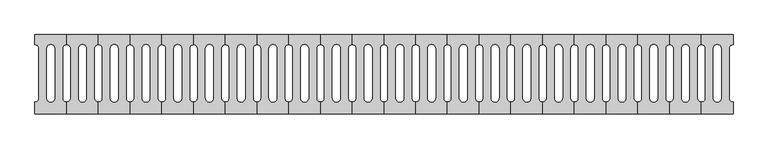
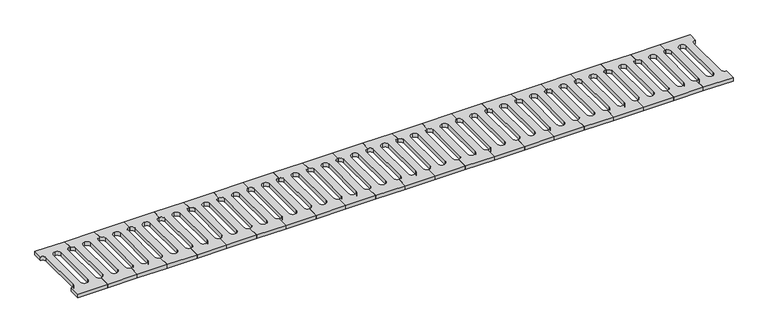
"""IFC4 building model written with IfcOpenShell, lengths in millimetres: proxy geometry, 排水沟盖板 : 排水沟盖板."""

from ifc_helpers import new_model, si_unit, point, frame, frame_2d, origin, place, context, project, spatial, polyline, circle_curve, trimmed, segment, composite_curve, outline, extrude, source, transform, mapped, element, save


def generic_models_fe227e94(model_context):
    return source(origin(), model_context, "Body", "SweptSolid", [
        extrude(outline(composite_curve([segment(polyline([(6080.0, -200.0), (5920.0, -200.0), (5920.0, -140.0)]), True, "CONTINUOUS"), segment(trimmed(circle_curve(frame_2d((5920.0, -120.0)), 20.0), [point((5920.0, -140.0))], [point((5940.0, -120.0))], True, "CARTESIAN"), True, "CONTINUOUS"), segment(polyline([(5940.0, -120.0), (5940.0, 130.0)]), True, "CONTINUOUS"), segment(trimmed(circle_curve(frame_2d((5920.0, 130.0)), 20.0), [point((5940.0, 130.0))], [point((5920.0, 150.0))], True, "CARTESIAN"), True, "CONTINUOUS"), segment(polyline([(5920.0, 150.0), (5920.0, 200.0), (6080.0, 200.0), (6080.0, 150.0)]), True, "CONTINUOUS"), segment(trimmed(circle_curve(frame_2d((6080.0, 130.0)), 20.0), [point((6080.0, 150.0))], [point((6060.0, 130.0))], True, "CARTESIAN"), True, "CONTINUOUS"), segment(polyline([(6060.0, 130.0), (6060.0, -120.0)]), True, "CONTINUOUS"), segment(trimmed(circle_curve(frame_2d((6080.0, -120.0)), 20.0), [point((6060.0, -120.0))], [point((6080.0, -140.0))], True, "CARTESIAN"), True, "CONTINUOUS"), segment(polyline([(6080.0, -140.0), (6080.0, -200.0)]), True, "CONTINUOUS")], self_intersect=False), holes=[composite_curve([segment(polyline([(5980.0, 130.0), (5980.0, -120.0)]), True, "CONTINUOUS"), segment(trimmed(circle_curve(frame_2d((6000.0, -120.0)), 20.0), [point((5980.0, -120.0))], [point((6000.0, -140.0))], True, "CARTESIAN"), True, "CONTINUOUS"), segment(trimmed(circle_curve(frame_2d((6000.0, -120.0)), 20.0), [point((6000.0, -140.0))], [point((6020.0, -120.0))], True, "CARTESIAN"), True, "CONTINUOUS"), segment(polyline([(6020.0, -120.0), (6020.0, 130.0)]), True, "CONTINUOUS"), segment(trimmed(circle_curve(frame_2d((6000.0, 130.0)), 20.0), [point((6020.0, 130.0))], [point((6000.0, 150.0))], True, "CARTESIAN"), True, "CONTINUOUS"), segment(trimmed(circle_curve(frame_2d((6000.0, 130.0)), 20.0), [point((6000.0, 150.0))], [point((5980.0, 130.0))], True, "CARTESIAN"), True, "CONTINUOUS")], self_intersect=False)]), frame((0.0, 0.0, -20.0), z_axis=(0.0, 0.0, 1.0), x_axis=(1.0, 0.0, 0.0)), (0.0, 0.0, 1.0), 20.0),
        extrude(outline(composite_curve([segment(polyline([(5920.0, -200.0), (5760.0, -200.0), (5760.0, -140.0)]), True, "CONTINUOUS"), segment(trimmed(circle_curve(frame_2d((5760.0, -120.0)), 20.0), [point((5760.0, -140.0))], [point((5780.0, -120.0))], True, "CARTESIAN"), True, "CONTINUOUS"), segment(polyline([(5780.0, -120.0), (5780.0, 130.0)]), True, "CONTINUOUS"), segment(trimmed(circle_curve(frame_2d((5760.0, 130.0)), 20.0), [point((5780.0, 130.0))], [point((5760.0, 150.0))], True, "CARTESIAN"), True, "CONTINUOUS"), segment(polyline([(5760.0, 150.0), (5760.0, 200.0), (5920.0, 200.0), (5920.0, 150.0)]), True, "CONTINUOUS"), segment(trimmed(circle_curve(frame_2d((5920.0, 130.0)), 20.0), [point((5920.0, 150.0))], [point((5900.0, 130.0))], True, "CARTESIAN"), True, "CONTINUOUS"), segment(polyline([(5900.0, 130.0), (5900.0, -120.0)]), True, "CONTINUOUS"), segment(trimmed(circle_curve(frame_2d((5920.0, -120.0)), 20.0), [point((5900.0, -120.0))], [point((5920.0, -140.0))], True, "CARTESIAN"), True, "CONTINUOUS"), segment(polyline([(5920.0, -140.0), (5920.0, -200.0)]), True, "CONTINUOUS")], self_intersect=False), holes=[composite_curve([segment(polyline([(5820.0, 130.0), (5820.0, -120.0)]), True, "CONTINUOUS"), segment(trimmed(circle_curve(frame_2d((5840.0, -120.0)), 20.0), [point((5820.0, -120.0))], [point((5840.0, -140.0))], True, "CARTESIAN"), True, "CONTINUOUS"), segment(trimmed(circle_curve(frame_2d((5840.0, -120.0)), 20.0), [point((5840.0, -140.0))], [point((5860.0, -120.0))], True, "CARTESIAN"), True, "CONTINUOUS"), segment(polyline([(5860.0, -120.0), (5860.0, 130.0)]), True, "CONTINUOUS"), segment(trimmed(circle_curve(frame_2d((5840.0, 130.0)), 20.0), [point((5860.0, 130.0))], [point((5840.0, 150.0))], True, "CARTESIAN"), True, "CONTINUOUS"), segment(trimmed(circle_curve(frame_2d((5840.0, 130.0)), 20.0), [point((5840.0, 150.0))], [point((5820.0, 130.0))], True, "CARTESIAN"), True, "CONTINUOUS")], self_intersect=False)]), frame((0.0, 0.0, -20.0), z_axis=(0.0, 0.0, 1.0), x_axis=(1.0, 0.0, 0.0)), (0.0, 0.0, 1.0), 20.0),
        extrude(outline(composite_curve([segment(polyline([(5760.0, -200.0), (5600.0, -200.0), (5600.0, -140.0)]), True, "CONTINUOUS"), segment(trimmed(circle_curve(frame_2d((5600.0, -120.0)), 20.0), [point((5600.0, -140.0))], [point((5620.0, -120.0))], True, "CARTESIAN"), True, "CONTINUOUS"), segment(polyline([(5620.0, -120.0), (5620.0, 130.0)]), True, "CONTINUOUS"), segment(trimmed(circle_curve(frame_2d((5600.0, 130.0)), 20.0), [point((5620.0, 130.0))], [point((5600.0, 150.0))], True, "CARTESIAN"), True, "CONTINUOUS"), segment(polyline([(5600.0, 150.0), (5600.0, 200.0), (5760.0, 200.0), (5760.0, 150.0)]), True, "CONTINUOUS"), segment(trimmed(circle_curve(frame_2d((5760.0, 130.0)), 20.0), [point((5760.0, 150.0))], [point((5740.0, 130.0))], True, "CARTESIAN"), True, "CONTINUOUS"), segment(polyline([(5740.0, 130.0), (5740.0, -120.0)]), True, "CONTINUOUS"), segment(trimmed(circle_curve(frame_2d((5760.0, -120.0)), 20.0), [point((5740.0, -120.0))], [point((5760.0, -140.0))], True, "CARTESIAN"), True, "CONTINUOUS"), segment(polyline([(5760.0, -140.0), (5760.0, -200.0)]), True, "CONTINUOUS")], self_intersect=False), holes=[composite_curve([segment(polyline([(5660.0, 130.0), (5660.0, -120.0)]), True, "CONTINUOUS"), segment(trimmed(circle_curve(frame_2d((5680.0, -120.0)), 20.0), [point((5660.0, -120.0))], [point((5680.0, -140.0))], True, "CARTESIAN"), True, "CONTINUOUS"), segment(trimmed(circle_curve(frame_2d((5680.0, -120.0)), 20.0), [point((5680.0, -140.0))], [point((5700.0, -120.0))], True, "CARTESIAN"), True, "CONTINUOUS"), segment(polyline([(5700.0, -120.0), (5700.0, 130.0)]), True, "CONTINUOUS"), segment(trimmed(circle_curve(frame_2d((5680.0, 130.0)), 20.0), [point((5700.0, 130.0))], [point((5680.0, 150.0))], True, "CARTESIAN"), True, "CONTINUOUS"), segment(trimmed(circle_curve(frame_2d((5680.0, 130.0)), 20.0), [point((5680.0, 150.0))], [point((5660.0, 130.0))], True, "CARTESIAN"), True, "CONTINUOUS")], self_intersect=False)]), frame((0.0, 0.0, -20.0), z_axis=(0.0, 0.0, 1.0), x_axis=(1.0, 0.0, 0.0)), (0.0, 0.0, 1.0), 20.0),
        extrude(outline(composite_curve([segment(polyline([(5600.0, -200.0), (5440.0, -200.0), (5440.0, -140.0)]), True, "CONTINUOUS"), segment(trimmed(circle_curve(frame_2d((5440.0, -120.0)), 20.0), [point((5440.0, -140.0))], [point((5460.0, -120.0))], True, "CARTESIAN"), True, "CONTINUOUS"), segment(polyline([(5460.0, -120.0), (5460.0, 130.0)]), True, "CONTINUOUS"), segment(trimmed(circle_curve(frame_2d((5440.0, 130.0)), 20.0), [point((5460.0, 130.0))], [point((5440.0, 150.0))], True, "CARTESIAN"), True, "CONTINUOUS"), segment(polyline([(5440.0, 150.0), (5440.0, 200.0), (5600.0, 200.0), (5600.0, 150.0)]), True, "CONTINUOUS"), segment(trimmed(circle_curve(frame_2d((5600.0, 130.0)), 20.0), [point((5600.0, 150.0))], [point((5580.0, 130.0))], True, "CARTESIAN"), True, "CONTINUOUS"), segment(polyline([(5580.0, 130.0), (5580.0, -120.0)]), True, "CONTINUOUS"), segment(trimmed(circle_curve(frame_2d((5600.0, -120.0)), 20.0), [point((5580.0, -120.0))], [point((5600.0, -140.0))], True, "CARTESIAN"), True, "CONTINUOUS"), segment(polyline([(5600.0, -140.0), (5600.0, -200.0)]), True, "CONTINUOUS")], self_intersect=False), holes=[composite_curve([segment(polyline([(5500.0, 130.0), (5500.0, -120.0)]), True, "CONTINUOUS"), segment(trimmed(circle_curve(frame_2d((5520.0, -120.0)), 20.0), [point((5500.0, -120.0))], [point((5520.0, -140.0))], True, "CARTESIAN"), True, "CONTINUOUS"), segment(trimmed(circle_curve(frame_2d((5520.0, -120.0)), 20.0), [point((5520.0, -140.0))], [point((5540.0, -120.0))], True, "CARTESIAN"), True, "CONTINUOUS"), segment(polyline([(5540.0, -120.0), (5540.0, 130.0)]), True, "CONTINUOUS"), segment(trimmed(circle_curve(frame_2d((5520.0, 130.0)), 20.0), [point((5540.0, 130.0))], [point((5520.0, 150.0))], True, "CARTESIAN"), True, "CONTINUOUS"), segment(trimmed(circle_curve(frame_2d((5520.0, 130.0)), 20.0), [point((5520.0, 150.0))], [point((5500.0, 130.0))], True, "CARTESIAN"), True, "CONTINUOUS")], self_intersect=False)]), frame((0.0, 0.0, -20.0), z_axis=(0.0, 0.0, 1.0), x_axis=(1.0, 0.0, 0.0)), (0.0, 0.0, 1.0), 20.0),
        extrude(outline(composite_curve([segment(polyline([(5440.0, -200.0), (5280.0, -200.0), (5280.0, -140.0)]), True, "CONTINUOUS"), segment(trimmed(circle_curve(frame_2d((5280.0, -120.0)), 20.0), [point((5280.0, -140.0))], [point((5300.0, -120.0))], True, "CARTESIAN"), True, "CONTINUOUS"), segment(polyline([(5300.0, -120.0), (5300.0, 130.0)]), True, "CONTINUOUS"), segment(trimmed(circle_curve(frame_2d((5280.0, 130.0)), 20.0), [point((5300.0, 130.0))], [point((5280.0, 150.0))], True, "CARTESIAN"), True, "CONTINUOUS"), segment(polyline([(5280.0, 150.0), (5280.0, 200.0), (5440.0, 200.0), (5440.0, 150.0)]), True, "CONTINUOUS"), segment(trimmed(circle_curve(frame_2d((5440.0, 130.0)), 20.0), [point((5440.0, 150.0))], [point((5420.0, 130.0))], True, "CARTESIAN"), True, "CONTINUOUS"), segment(polyline([(5420.0, 130.0), (5420.0, -120.0)]), True, "CONTINUOUS"), segment(trimmed(circle_curve(frame_2d((5440.0, -120.0)), 20.0), [point((5420.0, -120.0))], [point((5440.0, -140.0))], True, "CARTESIAN"), True, "CONTINUOUS"), segment(polyline([(5440.0, -140.0), (5440.0, -200.0)]), True, "CONTINUOUS")], self_intersect=False), holes=[composite_curve([segment(polyline([(5340.0, 130.0), (5340.0, -120.0)]), True, "CONTINUOUS"), segment(trimmed(circle_curve(frame_2d((5360.0, -120.0)), 20.0), [point((5340.0, -120.0))], [point((5360.0, -140.0))], True, "CARTESIAN"), True, "CONTINUOUS"), segment(trimmed(circle_curve(frame_2d((5360.0, -120.0)), 20.0), [point((5360.0, -140.0))], [point((5380.0, -120.0))], True, "CARTESIAN"), True, "CONTINUOUS"), segment(polyline([(5380.0, -120.0), (5380.0, 130.0)]), True, "CONTINUOUS"), segment(trimmed(circle_curve(frame_2d((5360.0, 130.0)), 20.0), [point((5380.0, 130.0))], [point((5360.0, 150.0))], True, "CARTESIAN"), True, "CONTINUOUS"), segment(trimmed(circle_curve(frame_2d((5360.0, 130.0)), 20.0), [point((5360.0, 150.0))], [point((5340.0, 130.0))], True, "CARTESIAN"), True, "CONTINUOUS")], self_intersect=False)]), frame((0.0, 0.0, -20.0), z_axis=(0.0, 0.0, 1.0), x_axis=(1.0, 0.0, 0.0)), (0.0, 0.0, 1.0), 20.0),
        extrude(outline(composite_curve([segment(polyline([(5280.0, -200.0), (5120.0, -200.0), (5120.0, -140.0)]), True, "CONTINUOUS"), segment(trimmed(circle_curve(frame_2d((5120.0, -120.0)), 20.0), [point((5120.0, -140.0))], [point((5140.0, -120.0))], True, "CARTESIAN"), True, "CONTINUOUS"), segment(polyline([(5140.0, -120.0), (5140.0, 130.0)]), True, "CONTINUOUS"), segment(trimmed(circle_curve(frame_2d((5120.0, 130.0)), 20.0), [point((5140.0, 130.0))], [point((5120.0, 150.0))], True, "CARTESIAN"), True, "CONTINUOUS"), segment(polyline([(5120.0, 150.0), (5120.0, 200.0), (5280.0, 200.0), (5280.0, 150.0)]), True, "CONTINUOUS"), segment(trimmed(circle_curve(frame_2d((5280.0, 130.0)), 20.0), [point((5280.0, 150.0))], [point((5260.0, 130.0))], True, "CARTESIAN"), True, "CONTINUOUS"), segment(polyline([(5260.0, 130.0), (5260.0, -120.0)]), True, "CONTINUOUS"), segment(trimmed(circle_curve(frame_2d((5280.0, -120.0)), 20.0), [point((5260.0, -120.0))], [point((5280.0, -140.0))], True, "CARTESIAN"), True, "CONTINUOUS"), segment(polyline([(5280.0, -140.0), (5280.0, -200.0)]), True, "CONTINUOUS")], self_intersect=False), holes=[composite_curve([segment(polyline([(5180.0, 130.0), (5180.0, -120.0)]), True, "CONTINUOUS"), segment(trimmed(circle_curve(frame_2d((5200.0, -120.0)), 20.0), [point((5180.0, -120.0))], [point((5200.0, -140.0))], True, "CARTESIAN"), True, "CONTINUOUS"), segment(trimmed(circle_curve(frame_2d((5200.0, -120.0)), 20.0), [point((5200.0, -140.0))], [point((5220.0, -120.0))], True, "CARTESIAN"), True, "CONTINUOUS"), segment(polyline([(5220.0, -120.0), (5220.0, 130.0)]), True, "CONTINUOUS"), segment(trimmed(circle_curve(frame_2d((5200.0, 130.0)), 20.0), [point((5220.0, 130.0))], [point((5200.0, 150.0))], True, "CARTESIAN"), True, "CONTINUOUS"), segment(trimmed(circle_curve(frame_2d((5200.0, 130.0)), 20.0), [point((5200.0, 150.0))], [point((5180.0, 130.0))], True, "CARTESIAN"), True, "CONTINUOUS")], self_intersect=False)]), frame((0.0, 0.0, -20.0), z_axis=(0.0, 0.0, 1.0), x_axis=(1.0, 0.0, 0.0)), (0.0, 0.0, 1.0), 20.0),
        extrude(outline(composite_curve([segment(polyline([(5120.0, -200.0), (4960.0, -200.0), (4960.0, -140.0)]), True, "CONTINUOUS"), segment(trimmed(circle_curve(frame_2d((4960.0, -120.0)), 20.0), [point((4960.0, -140.0))], [point((4980.0, -120.0))], True, "CARTESIAN"), True, "CONTINUOUS"), segment(polyline([(4980.0, -120.0), (4980.0, 130.0)]), True, "CONTINUOUS"), segment(trimmed(circle_curve(frame_2d((4960.0, 130.0)), 20.0), [point((4980.0, 130.0))], [point((4960.0, 150.0))], True, "CARTESIAN"), True, "CONTINUOUS"), segment(polyline([(4960.0, 150.0), (4960.0, 200.0), (5120.0, 200.0), (5120.0, 150.0)]), True, "CONTINUOUS"), segment(trimmed(circle_curve(frame_2d((5120.0, 130.0)), 20.0), [point((5120.0, 150.0))], [point((5100.0, 130.0))], True, "CARTESIAN"), True, "CONTINUOUS"), segment(polyline([(5100.0, 130.0), (5100.0, -120.0)]), True, "CONTINUOUS"), segment(trimmed(circle_curve(frame_2d((5120.0, -120.0)), 20.0), [point((5100.0, -120.0))], [point((5120.0, -140.0))], True, "CARTESIAN"), True, "CONTINUOUS"), segment(polyline([(5120.0, -140.0), (5120.0, -200.0)]), True, "CONTINUOUS")], self_intersect=False), holes=[composite_curve([segment(polyline([(5020.0, 130.0), (5020.0, -120.0)]), True, "CONTINUOUS"), segment(trimmed(circle_curve(frame_2d((5040.0, -120.0)), 20.0), [point((5020.0, -120.0))], [point((5040.0, -140.0))], True, "CARTESIAN"), True, "CONTINUOUS"), segment(trimmed(circle_curve(frame_2d((5040.0, -120.0)), 20.0), [point((5040.0, -140.0))], [point((5060.0, -120.0))], True, "CARTESIAN"), True, "CONTINUOUS"), segment(polyline([(5060.0, -120.0), (5060.0, 130.0)]), True, "CONTINUOUS"), segment(trimmed(circle_curve(frame_2d((5040.0, 130.0)), 20.0), [point((5060.0, 130.0))], [point((5040.0, 150.0))], True, "CARTESIAN"), True, "CONTINUOUS"), segment(trimmed(circle_curve(frame_2d((5040.0, 130.0)), 20.0), [point((5040.0, 150.0))], [point((5020.0, 130.0))], True, "CARTESIAN"), True, "CONTINUOUS")], self_intersect=False)]), frame((0.0, 0.0, -20.0), z_axis=(0.0, 0.0, 1.0), x_axis=(1.0, 0.0, 0.0)), (0.0, 0.0, 1.0), 20.0),
        extrude(outline(composite_curve([segment(polyline([(4960.0, -200.0), (4800.0, -200.0), (4800.0, -140.0)]), True, "CONTINUOUS"), segment(trimmed(circle_curve(frame_2d((4800.0, -120.0)), 20.0), [point((4800.0, -140.0))], [point((4820.0, -120.0))], True, "CARTESIAN"), True, "CONTINUOUS"), segment(polyline([(4820.0, -120.0), (4820.0, 130.0)]), True, "CONTINUOUS"), segment(trimmed(circle_curve(frame_2d((4800.0, 130.0)), 20.0), [point((4820.0, 130.0))], [point((4800.0, 150.0))], True, "CARTESIAN"), True, "CONTINUOUS"), segment(polyline([(4800.0, 150.0), (4800.0, 200.0), (4960.0, 200.0), (4960.0, 150.0)]), True, "CONTINUOUS"), segment(trimmed(circle_curve(frame_2d((4960.0, 130.0)), 20.0), [point((4960.0, 150.0))], [point((4940.0, 130.0))], True, "CARTESIAN"), True, "CONTINUOUS"), segment(polyline([(4940.0, 130.0), (4940.0, -120.0)]), True, "CONTINUOUS"), segment(trimmed(circle_curve(frame_2d((4960.0, -120.0)), 20.0), [point((4940.0, -120.0))], [point((4960.0, -140.0))], True, "CARTESIAN"), True, "CONTINUOUS"), segment(polyline([(4960.0, -140.0), (4960.0, -200.0)]), True, "CONTINUOUS")], self_intersect=False), holes=[composite_curve([segment(polyline([(4860.0, 130.0), (4860.0, -120.0)]), True, "CONTINUOUS"), segment(trimmed(circle_curve(frame_2d((4880.0, -120.0)), 20.0), [point((4860.0, -120.0))], [point((4880.0, -140.0))], True, "CARTESIAN"), True, "CONTINUOUS"), segment(trimmed(circle_curve(frame_2d((4880.0, -120.0)), 20.0), [point((4880.0, -140.0))], [point((4900.0, -120.0))], True, "CARTESIAN"), True, "CONTINUOUS"), segment(polyline([(4900.0, -120.0), (4900.0, 130.0)]), True, "CONTINUOUS"), segment(trimmed(circle_curve(frame_2d((4880.0, 130.0)), 20.0), [point((4900.0, 130.0))], [point((4880.0, 150.0))], True, "CARTESIAN"), True, "CONTINUOUS"), segment(trimmed(circle_curve(frame_2d((4880.0, 130.0)), 20.0), [point((4880.0, 150.0))], [point((4860.0, 130.0))], True, "CARTESIAN"), True, "CONTINUOUS")], self_intersect=False)]), frame((0.0, 0.0, -20.0), z_axis=(0.0, 0.0, 1.0), x_axis=(1.0, 0.0, 0.0)), (0.0, 0.0, 1.0), 20.0),
        extrude(outline(composite_curve([segment(polyline([(4800.0, -200.0), (4640.0, -200.0), (4640.0, -140.0)]), True, "CONTINUOUS"), segment(trimmed(circle_curve(frame_2d((4640.0, -120.0)), 20.0), [point((4640.0, -140.0))], [point((4660.0, -120.0))], True, "CARTESIAN"), True, "CONTINUOUS"), segment(polyline([(4660.0, -120.0), (4660.0, 130.0)]), True, "CONTINUOUS"), segment(trimmed(circle_curve(frame_2d((4640.0, 130.0)), 20.0), [point((4660.0, 130.0))], [point((4640.0, 150.0))], True, "CARTESIAN"), True, "CONTINUOUS"), segment(polyline([(4640.0, 150.0), (4640.0, 200.0), (4800.0, 200.0), (4800.0, 150.0)]), True, "CONTINUOUS"), segment(trimmed(circle_curve(frame_2d((4800.0, 130.0)), 20.0), [point((4800.0, 150.0))], [point((4780.0, 130.0))], True, "CARTESIAN"), True, "CONTINUOUS"), segment(polyline([(4780.0, 130.0), (4780.0, -120.0)]), True, "CONTINUOUS"), segment(trimmed(circle_curve(frame_2d((4800.0, -120.0)), 20.0), [point((4780.0, -120.0))], [point((4800.0, -140.0))], True, "CARTESIAN"), True, "CONTINUOUS"), segment(polyline([(4800.0, -140.0), (4800.0, -200.0)]), True, "CONTINUOUS")], self_intersect=False), holes=[composite_curve([segment(polyline([(4700.0, 130.0), (4700.0, -120.0)]), True, "CONTINUOUS"), segment(trimmed(circle_curve(frame_2d((4720.0, -120.0)), 20.0), [point((4700.0, -120.0))], [point((4720.0, -140.0))], True, "CARTESIAN"), True, "CONTINUOUS"), segment(trimmed(circle_curve(frame_2d((4720.0, -120.0)), 20.0), [point((4720.0, -140.0))], [point((4740.0, -120.0))], True, "CARTESIAN"), True, "CONTINUOUS"), segment(polyline([(4740.0, -120.0), (4740.0, 130.0)]), True, "CONTINUOUS"), segment(trimmed(circle_curve(frame_2d((4720.0, 130.0)), 20.0), [point((4740.0, 130.0))], [point((4720.0, 150.0))], True, "CARTESIAN"), True, "CONTINUOUS"), segment(trimmed(circle_curve(frame_2d((4720.0, 130.0)), 20.0), [point((4720.0, 150.0))], [point((4700.0, 130.0))], True, "CARTESIAN"), True, "CONTINUOUS")], self_intersect=False)]), frame((0.0, 0.0, -20.0), z_axis=(0.0, 0.0, 1.0), x_axis=(1.0, 0.0, 0.0)), (0.0, 0.0, 1.0), 20.0),
        extrude(outline(composite_curve([segment(polyline([(4640.0, -200.0), (4480.0, -200.0), (4480.0, -140.0)]), True, "CONTINUOUS"), segment(trimmed(circle_curve(frame_2d((4480.0, -120.0)), 20.0), [point((4480.0, -140.0))], [point((4500.0, -120.0))], True, "CARTESIAN"), True, "CONTINUOUS"), segment(polyline([(4500.0, -120.0), (4500.0, 130.0)]), True, "CONTINUOUS"), segment(trimmed(circle_curve(frame_2d((4480.0, 130.0)), 20.0), [point((4500.0, 130.0))], [point((4480.0, 150.0))], True, "CARTESIAN"), True, "CONTINUOUS"), segment(polyline([(4480.0, 150.0), (4480.0, 200.0), (4640.0, 200.0), (4640.0, 150.0)]), True, "CONTINUOUS"), segment(trimmed(circle_curve(frame_2d((4640.0, 130.0)), 20.0), [point((4640.0, 150.0))], [point((4620.0, 130.0))], True, "CARTESIAN"), True, "CONTINUOUS"), segment(polyline([(4620.0, 130.0), (4620.0, -120.0)]), True, "CONTINUOUS"), segment(trimmed(circle_curve(frame_2d((4640.0, -120.0)), 20.0), [point((4620.0, -120.0))], [point((4640.0, -140.0))], True, "CARTESIAN"), True, "CONTINUOUS"), segment(polyline([(4640.0, -140.0), (4640.0, -200.0)]), True, "CONTINUOUS")], self_intersect=False), holes=[composite_curve([segment(polyline([(4540.0, 130.0), (4540.0, -120.0)]), True, "CONTINUOUS"), segment(trimmed(circle_curve(frame_2d((4560.0, -120.0)), 20.0), [point((4540.0, -120.0))], [point((4560.0, -140.0))], True, "CARTESIAN"), True, "CONTINUOUS"), segment(trimmed(circle_curve(frame_2d((4560.0, -120.0)), 20.0), [point((4560.0, -140.0))], [point((4580.0, -120.0))], True, "CARTESIAN"), True, "CONTINUOUS"), segment(polyline([(4580.0, -120.0), (4580.0, 130.0)]), True, "CONTINUOUS"), segment(trimmed(circle_curve(frame_2d((4560.0, 130.0)), 20.0), [point((4580.0, 130.0))], [point((4560.0, 150.0))], True, "CARTESIAN"), True, "CONTINUOUS"), segment(trimmed(circle_curve(frame_2d((4560.0, 130.0)), 20.0), [point((4560.0, 150.0))], [point((4540.0, 130.0))], True, "CARTESIAN"), True, "CONTINUOUS")], self_intersect=False)]), frame((0.0, 0.0, -20.0), z_axis=(0.0, 0.0, 1.0), x_axis=(1.0, 0.0, 0.0)), (0.0, 0.0, 1.0), 20.0),
        extrude(outline(composite_curve([segment(polyline([(4480.0, -200.0), (4320.0, -200.0), (4320.0, -140.0)]), True, "CONTINUOUS"), segment(trimmed(circle_curve(frame_2d((4320.0, -120.0)), 20.0), [point((4320.0, -140.0))], [point((4340.0, -120.0))], True, "CARTESIAN"), True, "CONTINUOUS"), segment(polyline([(4340.0, -120.0), (4340.0, 130.0)]), True, "CONTINUOUS"), segment(trimmed(circle_curve(frame_2d((4320.0, 130.0)), 20.0), [point((4340.0, 130.0))], [point((4320.0, 150.0))], True, "CARTESIAN"), True, "CONTINUOUS"), segment(polyline([(4320.0, 150.0), (4320.0, 200.0), (4480.0, 200.0), (4480.0, 150.0)]), True, "CONTINUOUS"), segment(trimmed(circle_curve(frame_2d((4480.0, 130.0)), 20.0), [point((4480.0, 150.0))], [point((4460.0, 130.0))], True, "CARTESIAN"), True, "CONTINUOUS"), segment(polyline([(4460.0, 130.0), (4460.0, -120.0)]), True, "CONTINUOUS"), segment(trimmed(circle_curve(frame_2d((4480.0, -120.0)), 20.0), [point((4460.0, -120.0))], [point((4480.0, -140.0))], True, "CARTESIAN"), True, "CONTINUOUS"), segment(polyline([(4480.0, -140.0), (4480.0, -200.0)]), True, "CONTINUOUS")], self_intersect=False), holes=[composite_curve([segment(polyline([(4380.0, 130.0), (4380.0, -120.0)]), True, "CONTINUOUS"), segment(trimmed(circle_curve(frame_2d((4400.0, -120.0)), 20.0), [point((4380.0, -120.0))], [point((4400.0, -140.0))], True, "CARTESIAN"), True, "CONTINUOUS"), segment(trimmed(circle_curve(frame_2d((4400.0, -120.0)), 20.0), [point((4400.0, -140.0))], [point((4420.0, -120.0))], True, "CARTESIAN"), True, "CONTINUOUS"), segment(polyline([(4420.0, -120.0), (4420.0, 130.0)]), True, "CONTINUOUS"), segment(trimmed(circle_curve(frame_2d((4400.0, 130.0)), 20.0), [point((4420.0, 130.0))], [point((4400.0, 150.0))], True, "CARTESIAN"), True, "CONTINUOUS"), segment(trimmed(circle_curve(frame_2d((4400.0, 130.0)), 20.0), [point((4400.0, 150.0))], [point((4380.0, 130.0))], True, "CARTESIAN"), True, "CONTINUOUS")], self_intersect=False)]), frame((0.0, 0.0, -20.0), z_axis=(0.0, 0.0, 1.0), x_axis=(1.0, 0.0, 0.0)), (0.0, 0.0, 1.0), 20.0),
        extrude(outline(composite_curve([segment(polyline([(4320.0, -200.0), (4160.0, -200.0), (4160.0, -140.0)]), True, "CONTINUOUS"), segment(trimmed(circle_curve(frame_2d((4160.0, -120.0)), 20.0), [point((4160.0, -140.0))], [point((4180.0, -120.0))], True, "CARTESIAN"), True, "CONTINUOUS"), segment(polyline([(4180.0, -120.0), (4180.0, 130.0)]), True, "CONTINUOUS"), segment(trimmed(circle_curve(frame_2d((4160.0, 130.0)), 20.0), [point((4180.0, 130.0))], [point((4160.0, 150.0))], True, "CARTESIAN"), True, "CONTINUOUS"), segment(polyline([(4160.0, 150.0), (4160.0, 200.0), (4320.0, 200.0), (4320.0, 150.0)]), True, "CONTINUOUS"), segment(trimmed(circle_curve(frame_2d((4320.0, 130.0)), 20.0), [point((4320.0, 150.0))], [point((4300.0, 130.0))], True, "CARTESIAN"), True, "CONTINUOUS"), segment(polyline([(4300.0, 130.0), (4300.0, -120.0)]), True, "CONTINUOUS"), segment(trimmed(circle_curve(frame_2d((4320.0, -120.0)), 20.0), [point((4300.0, -120.0))], [point((4320.0, -140.0))], True, "CARTESIAN"), True, "CONTINUOUS"), segment(polyline([(4320.0, -140.0), (4320.0, -200.0)]), True, "CONTINUOUS")], self_intersect=False), holes=[composite_curve([segment(polyline([(4220.0, 130.0), (4220.0, -120.0)]), True, "CONTINUOUS"), segment(trimmed(circle_curve(frame_2d((4240.0, -120.0)), 20.0), [point((4220.0, -120.0))], [point((4240.0, -140.0))], True, "CARTESIAN"), True, "CONTINUOUS"), segment(trimmed(circle_curve(frame_2d((4240.0, -120.0)), 20.0), [point((4240.0, -140.0))], [point((4260.0, -120.0))], True, "CARTESIAN"), True, "CONTINUOUS"), segment(polyline([(4260.0, -120.0), (4260.0, 130.0)]), True, "CONTINUOUS"), segment(trimmed(circle_curve(frame_2d((4240.0, 130.0)), 20.0), [point((4260.0, 130.0))], [point((4240.0, 150.0))], True, "CARTESIAN"), True, "CONTINUOUS"), segment(trimmed(circle_curve(frame_2d((4240.0, 130.0)), 20.0), [point((4240.0, 150.0))], [point((4220.0, 130.0))], True, "CARTESIAN"), True, "CONTINUOUS")], self_intersect=False)]), frame((0.0, 0.0, -20.0), z_axis=(0.0, 0.0, 1.0), x_axis=(1.0, 0.0, 0.0)), (0.0, 0.0, 1.0), 20.0),
        extrude(outline(composite_curve([segment(polyline([(4160.0, -200.0), (4000.0, -200.0), (4000.0, -140.0)]), True, "CONTINUOUS"), segment(trimmed(circle_curve(frame_2d((4000.0, -120.0)), 20.0), [point((4000.0, -140.0))], [point((4020.0, -120.0))], True, "CARTESIAN"), True, "CONTINUOUS"), segment(polyline([(4020.0, -120.0), (4020.0, 130.0)]), True, "CONTINUOUS"), segment(trimmed(circle_curve(frame_2d((4000.0, 130.0)), 20.0), [point((4020.0, 130.0))], [point((4000.0, 150.0))], True, "CARTESIAN"), True, "CONTINUOUS"), segment(polyline([(4000.0, 150.0), (4000.0, 200.0), (4160.0, 200.0), (4160.0, 150.0)]), True, "CONTINUOUS"), segment(trimmed(circle_curve(frame_2d((4160.0, 130.0)), 20.0), [point((4160.0, 150.0))], [point((4140.0, 130.0))], True, "CARTESIAN"), True, "CONTINUOUS"), segment(polyline([(4140.0, 130.0), (4140.0, -120.0)]), True, "CONTINUOUS"), segment(trimmed(circle_curve(frame_2d((4160.0, -120.0)), 20.0), [point((4140.0, -120.0))], [point((4160.0, -140.0))], True, "CARTESIAN"), True, "CONTINUOUS"), segment(polyline([(4160.0, -140.0), (4160.0, -200.0)]), True, "CONTINUOUS")], self_intersect=False), holes=[composite_curve([segment(polyline([(4060.0, 130.0), (4060.0, -120.0)]), True, "CONTINUOUS"), segment(trimmed(circle_curve(frame_2d((4080.0, -120.0)), 20.0), [point((4060.0, -120.0))], [point((4080.0, -140.0))], True, "CARTESIAN"), True, "CONTINUOUS"), segment(trimmed(circle_curve(frame_2d((4080.0, -120.0)), 20.0), [point((4080.0, -140.0))], [point((4100.0, -120.0))], True, "CARTESIAN"), True, "CONTINUOUS"), segment(polyline([(4100.0, -120.0), (4100.0, 130.0)]), True, "CONTINUOUS"), segment(trimmed(circle_curve(frame_2d((4080.0, 130.0)), 20.0), [point((4100.0, 130.0))], [point((4080.0, 150.0))], True, "CARTESIAN"), True, "CONTINUOUS"), segment(trimmed(circle_curve(frame_2d((4080.0, 130.0)), 20.0), [point((4080.0, 150.0))], [point((4060.0, 130.0))], True, "CARTESIAN"), True, "CONTINUOUS")], self_intersect=False)]), frame((0.0, 0.0, -20.0), z_axis=(0.0, 0.0, 1.0), x_axis=(1.0, 0.0, 0.0)), (0.0, 0.0, 1.0), 20.0),
        extrude(outline(composite_curve([segment(polyline([(4000.0, -200.0), (3840.0, -200.0), (3840.0, -140.0)]), True, "CONTINUOUS"), segment(trimmed(circle_curve(frame_2d((3840.0, -120.0)), 20.0), [point((3840.0, -140.0))], [point((3860.0, -120.0))], True, "CARTESIAN"), True, "CONTINUOUS"), segment(polyline([(3860.0, -120.0), (3860.0, 130.0)]), True, "CONTINUOUS"), segment(trimmed(circle_curve(frame_2d((3840.0, 130.0)), 20.0), [point((3860.0, 130.0))], [point((3840.0, 150.0))], True, "CARTESIAN"), True, "CONTINUOUS"), segment(polyline([(3840.0, 150.0), (3840.0, 200.0), (4000.0, 200.0), (4000.0, 150.0)]), True, "CONTINUOUS"), segment(trimmed(circle_curve(frame_2d((4000.0, 130.0)), 20.0), [point((4000.0, 150.0))], [point((3980.0, 130.0))], True, "CARTESIAN"), True, "CONTINUOUS"), segment(polyline([(3980.0, 130.0), (3980.0, -120.0)]), True, "CONTINUOUS"), segment(trimmed(circle_curve(frame_2d((4000.0, -120.0)), 20.0), [point((3980.0, -120.0))], [point((4000.0, -140.0))], True, "CARTESIAN"), True, "CONTINUOUS"), segment(polyline([(4000.0, -140.0), (4000.0, -200.0)]), True, "CONTINUOUS")], self_intersect=False), holes=[composite_curve([segment(polyline([(3900.0, 130.0), (3900.0, -120.0)]), True, "CONTINUOUS"), segment(trimmed(circle_curve(frame_2d((3920.0, -120.0)), 20.0), [point((3900.0, -120.0))], [point((3920.0, -140.0))], True, "CARTESIAN"), True, "CONTINUOUS"), segment(trimmed(circle_curve(frame_2d((3920.0, -120.0)), 20.0), [point((3920.0, -140.0))], [point((3940.0, -120.0))], True, "CARTESIAN"), True, "CONTINUOUS"), segment(polyline([(3940.0, -120.0), (3940.0, 130.0)]), True, "CONTINUOUS"), segment(trimmed(circle_curve(frame_2d((3920.0, 130.0)), 20.0), [point((3940.0, 130.0))], [point((3920.0, 150.0))], True, "CARTESIAN"), True, "CONTINUOUS"), segment(trimmed(circle_curve(frame_2d((3920.0, 130.0)), 20.0), [point((3920.0, 150.0))], [point((3900.0, 130.0))], True, "CARTESIAN"), True, "CONTINUOUS")], self_intersect=False)]), frame((0.0, 0.0, -20.0), z_axis=(0.0, 0.0, 1.0), x_axis=(1.0, 0.0, 0.0)), (0.0, 0.0, 1.0), 20.0),
        extrude(outline(composite_curve([segment(polyline([(3840.0, -200.0), (3680.0, -200.0), (3680.0, -140.0)]), True, "CONTINUOUS"), segment(trimmed(circle_curve(frame_2d((3680.0, -120.0)), 20.0), [point((3680.0, -140.0))], [point((3700.0, -120.0))], True, "CARTESIAN"), True, "CONTINUOUS"), segment(polyline([(3700.0, -120.0), (3700.0, 130.0)]), True, "CONTINUOUS"), segment(trimmed(circle_curve(frame_2d((3680.0, 130.0)), 20.0), [point((3700.0, 130.0))], [point((3680.0, 150.0))], True, "CARTESIAN"), True, "CONTINUOUS"), segment(polyline([(3680.0, 150.0), (3680.0, 200.0), (3840.0, 200.0), (3840.0, 150.0)]), True, "CONTINUOUS"), segment(trimmed(circle_curve(frame_2d((3840.0, 130.0)), 20.0), [point((3840.0, 150.0))], [point((3820.0, 130.0))], True, "CARTESIAN"), True, "CONTINUOUS"), segment(polyline([(3820.0, 130.0), (3820.0, -120.0)]), True, "CONTINUOUS"), segment(trimmed(circle_curve(frame_2d((3840.0, -120.0)), 20.0), [point((3820.0, -120.0))], [point((3840.0, -140.0))], True, "CARTESIAN"), True, "CONTINUOUS"), segment(polyline([(3840.0, -140.0), (3840.0, -200.0)]), True, "CONTINUOUS")], self_intersect=False), holes=[composite_curve([segment(polyline([(3740.0, 130.0), (3740.0, -120.0)]), True, "CONTINUOUS"), segment(trimmed(circle_curve(frame_2d((3760.0, -120.0)), 20.0), [point((3740.0, -120.0))], [point((3760.0, -140.0))], True, "CARTESIAN"), True, "CONTINUOUS"), segment(trimmed(circle_curve(frame_2d((3760.0, -120.0)), 20.0), [point((3760.0, -140.0))], [point((3780.0, -120.0))], True, "CARTESIAN"), True, "CONTINUOUS"), segment(polyline([(3780.0, -120.0), (3780.0, 130.0)]), True, "CONTINUOUS"), segment(trimmed(circle_curve(frame_2d((3760.0, 130.0)), 20.0), [point((3780.0, 130.0))], [point((3760.0, 150.0))], True, "CARTESIAN"), True, "CONTINUOUS"), segment(trimmed(circle_curve(frame_2d((3760.0, 130.0)), 20.0), [point((3760.0, 150.0))], [point((3740.0, 130.0))], True, "CARTESIAN"), True, "CONTINUOUS")], self_intersect=False)]), frame((0.0, 0.0, -20.0), z_axis=(0.0, 0.0, 1.0), x_axis=(1.0, 0.0, 0.0)), (0.0, 0.0, 1.0), 20.0),
        extrude(outline(composite_curve([segment(polyline([(3680.0, -200.0), (3520.0, -200.0), (3520.0, -140.0)]), True, "CONTINUOUS"), segment(trimmed(circle_curve(frame_2d((3520.0, -120.0)), 20.0), [point((3520.0, -140.0))], [point((3540.0, -120.0))], True, "CARTESIAN"), True, "CONTINUOUS"), segment(polyline([(3540.0, -120.0), (3540.0, 130.0)]), True, "CONTINUOUS"), segment(trimmed(circle_curve(frame_2d((3520.0, 130.0)), 20.0), [point((3540.0, 130.0))], [point((3520.0, 150.0))], True, "CARTESIAN"), True, "CONTINUOUS"), segment(polyline([(3520.0, 150.0), (3520.0, 200.0), (3680.0, 200.0), (3680.0, 150.0)]), True, "CONTINUOUS"), segment(trimmed(circle_curve(frame_2d((3680.0, 130.0)), 20.0), [point((3680.0, 150.0))], [point((3660.0, 130.0))], True, "CARTESIAN"), True, "CONTINUOUS"), segment(polyline([(3660.0, 130.0), (3660.0, -120.0)]), True, "CONTINUOUS"), segment(trimmed(circle_curve(frame_2d((3680.0, -120.0)), 20.0), [point((3660.0, -120.0))], [point((3680.0, -140.0))], True, "CARTESIAN"), True, "CONTINUOUS"), segment(polyline([(3680.0, -140.0), (3680.0, -200.0)]), True, "CONTINUOUS")], self_intersect=False), holes=[composite_curve([segment(polyline([(3580.0, 130.0), (3580.0, -120.0)]), True, "CONTINUOUS"), segment(trimmed(circle_curve(frame_2d((3600.0, -120.0)), 20.0), [point((3580.0, -120.0))], [point((3600.0, -140.0))], True, "CARTESIAN"), True, "CONTINUOUS"), segment(trimmed(circle_curve(frame_2d((3600.0, -120.0)), 20.0), [point((3600.0, -140.0))], [point((3620.0, -120.0))], True, "CARTESIAN"), True, "CONTINUOUS"), segment(polyline([(3620.0, -120.0), (3620.0, 130.0)]), True, "CONTINUOUS"), segment(trimmed(circle_curve(frame_2d((3600.0, 130.0)), 20.0), [point((3620.0, 130.0))], [point((3600.0, 150.0))], True, "CARTESIAN"), True, "CONTINUOUS"), segment(trimmed(circle_curve(frame_2d((3600.0, 130.0)), 20.0), [point((3600.0, 150.0))], [point((3580.0, 130.0))], True, "CARTESIAN"), True, "CONTINUOUS")], self_intersect=False)]), frame((0.0, 0.0, -20.0), z_axis=(0.0, 0.0, 1.0), x_axis=(1.0, 0.0, 0.0)), (0.0, 0.0, 1.0), 20.0),
        extrude(outline(composite_curve([segment(polyline([(3520.0, -200.0), (3360.0, -200.0), (3360.0, -140.0)]), True, "CONTINUOUS"), segment(trimmed(circle_curve(frame_2d((3360.0, -120.0)), 20.0), [point((3360.0, -140.0))], [point((3380.0, -120.0))], True, "CARTESIAN"), True, "CONTINUOUS"), segment(polyline([(3380.0, -120.0), (3380.0, 130.0)]), True, "CONTINUOUS"), segment(trimmed(circle_curve(frame_2d((3360.0, 130.0)), 20.0), [point((3380.0, 130.0))], [point((3360.0, 150.0))], True, "CARTESIAN"), True, "CONTINUOUS"), segment(polyline([(3360.0, 150.0), (3360.0, 200.0), (3520.0, 200.0), (3520.0, 150.0)]), True, "CONTINUOUS"), segment(trimmed(circle_curve(frame_2d((3520.0, 130.0)), 20.0), [point((3520.0, 150.0))], [point((3500.0, 130.0))], True, "CARTESIAN"), True, "CONTINUOUS"), segment(polyline([(3500.0, 130.0), (3500.0, -120.0)]), True, "CONTINUOUS"), segment(trimmed(circle_curve(frame_2d((3520.0, -120.0)), 20.0), [point((3500.0, -120.0))], [point((3520.0, -140.0))], True, "CARTESIAN"), True, "CONTINUOUS"), segment(polyline([(3520.0, -140.0), (3520.0, -200.0)]), True, "CONTINUOUS")], self_intersect=False), holes=[composite_curve([segment(polyline([(3420.0, 130.0), (3420.0, -120.0)]), True, "CONTINUOUS"), segment(trimmed(circle_curve(frame_2d((3440.0, -120.0)), 20.0), [point((3420.0, -120.0))], [point((3440.0, -140.0))], True, "CARTESIAN"), True, "CONTINUOUS"), segment(trimmed(circle_curve(frame_2d((3440.0, -120.0)), 20.0), [point((3440.0, -140.0))], [point((3460.0, -120.0))], True, "CARTESIAN"), True, "CONTINUOUS"), segment(polyline([(3460.0, -120.0), (3460.0, 130.0)]), True, "CONTINUOUS"), segment(trimmed(circle_curve(frame_2d((3440.0, 130.0)), 20.0), [point((3460.0, 130.0))], [point((3440.0, 150.0))], True, "CARTESIAN"), True, "CONTINUOUS"), segment(trimmed(circle_curve(frame_2d((3440.0, 130.0)), 20.0), [point((3440.0, 150.0))], [point((3420.0, 130.0))], True, "CARTESIAN"), True, "CONTINUOUS")], self_intersect=False)]), frame((0.0, 0.0, -20.0), z_axis=(0.0, 0.0, 1.0), x_axis=(1.0, 0.0, 0.0)), (0.0, 0.0, 1.0), 20.0),
        extrude(outline(composite_curve([segment(polyline([(3360.0, -200.0), (3200.0, -200.0), (3200.0, -140.0)]), True, "CONTINUOUS"), segment(trimmed(circle_curve(frame_2d((3200.0, -120.0)), 20.0), [point((3200.0, -140.0))], [point((3220.0, -120.0))], True, "CARTESIAN"), True, "CONTINUOUS"), segment(polyline([(3220.0, -120.0), (3220.0, 130.0)]), True, "CONTINUOUS"), segment(trimmed(circle_curve(frame_2d((3200.0, 130.0)), 20.0), [point((3220.0, 130.0))], [point((3200.0, 150.0))], True, "CARTESIAN"), True, "CONTINUOUS"), segment(polyline([(3200.0, 150.0), (3200.0, 200.0), (3360.0, 200.0), (3360.0, 150.0)]), True, "CONTINUOUS"), segment(trimmed(circle_curve(frame_2d((3360.0, 130.0)), 20.0), [point((3360.0, 150.0))], [point((3340.0, 130.0))], True, "CARTESIAN"), True, "CONTINUOUS"), segment(polyline([(3340.0, 130.0), (3340.0, -120.0)]), True, "CONTINUOUS"), segment(trimmed(circle_curve(frame_2d((3360.0, -120.0)), 20.0), [point((3340.0, -120.0))], [point((3360.0, -140.0))], True, "CARTESIAN"), True, "CONTINUOUS"), segment(polyline([(3360.0, -140.0), (3360.0, -200.0)]), True, "CONTINUOUS")], self_intersect=False), holes=[composite_curve([segment(polyline([(3260.0, 130.0), (3260.0, -120.0)]), True, "CONTINUOUS"), segment(trimmed(circle_curve(frame_2d((3280.0, -120.0)), 20.0), [point((3260.0, -120.0))], [point((3280.0, -140.0))], True, "CARTESIAN"), True, "CONTINUOUS"), segment(trimmed(circle_curve(frame_2d((3280.0, -120.0)), 20.0), [point((3280.0, -140.0))], [point((3300.0, -120.0))], True, "CARTESIAN"), True, "CONTINUOUS"), segment(polyline([(3300.0, -120.0), (3300.0, 130.0)]), True, "CONTINUOUS"), segment(trimmed(circle_curve(frame_2d((3280.0, 130.0)), 20.0), [point((3300.0, 130.0))], [point((3280.0, 150.0))], True, "CARTESIAN"), True, "CONTINUOUS"), segment(trimmed(circle_curve(frame_2d((3280.0, 130.0)), 20.0), [point((3280.0, 150.0))], [point((3260.0, 130.0))], True, "CARTESIAN"), True, "CONTINUOUS")], self_intersect=False)]), frame((0.0, 0.0, -20.0), z_axis=(0.0, 0.0, 1.0), x_axis=(1.0, 0.0, 0.0)), (0.0, 0.0, 1.0), 20.0),
        extrude(outline(composite_curve([segment(polyline([(3200.0, -200.0), (3040.0, -200.0), (3040.0, -140.0)]), True, "CONTINUOUS"), segment(trimmed(circle_curve(frame_2d((3040.0, -120.0)), 20.0), [point((3040.0, -140.0))], [point((3060.0, -120.0))], True, "CARTESIAN"), True, "CONTINUOUS"), segment(polyline([(3060.0, -120.0), (3060.0, 130.0)]), True, "CONTINUOUS"), segment(trimmed(circle_curve(frame_2d((3040.0, 130.0)), 20.0), [point((3060.0, 130.0))], [point((3040.0, 150.0))], True, "CARTESIAN"), True, "CONTINUOUS"), segment(polyline([(3040.0, 150.0), (3040.0, 200.0), (3200.0, 200.0), (3200.0, 150.0)]), True, "CONTINUOUS"), segment(trimmed(circle_curve(frame_2d((3200.0, 130.0)), 20.0), [point((3200.0, 150.0))], [point((3180.0, 130.0))], True, "CARTESIAN"), True, "CONTINUOUS"), segment(polyline([(3180.0, 130.0), (3180.0, -120.0)]), True, "CONTINUOUS"), segment(trimmed(circle_curve(frame_2d((3200.0, -120.0)), 20.0), [point((3180.0, -120.0))], [point((3200.0, -140.0))], True, "CARTESIAN"), True, "CONTINUOUS"), segment(polyline([(3200.0, -140.0), (3200.0, -200.0)]), True, "CONTINUOUS")], self_intersect=False), holes=[composite_curve([segment(polyline([(3100.0, 130.0), (3100.0, -120.0)]), True, "CONTINUOUS"), segment(trimmed(circle_curve(frame_2d((3120.0, -120.0)), 20.0), [point((3100.0, -120.0))], [point((3120.0, -140.0))], True, "CARTESIAN"), True, "CONTINUOUS"), segment(trimmed(circle_curve(frame_2d((3120.0, -120.0)), 20.0), [point((3120.0, -140.0))], [point((3140.0, -120.0))], True, "CARTESIAN"), True, "CONTINUOUS"), segment(polyline([(3140.0, -120.0), (3140.0, 130.0)]), True, "CONTINUOUS"), segment(trimmed(circle_curve(frame_2d((3120.0, 130.0)), 20.0), [point((3140.0, 130.0))], [point((3120.0, 150.0))], True, "CARTESIAN"), True, "CONTINUOUS"), segment(trimmed(circle_curve(frame_2d((3120.0, 130.0)), 20.0), [point((3120.0, 150.0))], [point((3100.0, 130.0))], True, "CARTESIAN"), True, "CONTINUOUS")], self_intersect=False)]), frame((0.0, 0.0, -20.0), z_axis=(0.0, 0.0, 1.0), x_axis=(1.0, 0.0, 0.0)), (0.0, 0.0, 1.0), 20.0),
        extrude(outline(composite_curve([segment(polyline([(3040.0, -200.0), (2880.0, -200.0), (2880.0, -140.0)]), True, "CONTINUOUS"), segment(trimmed(circle_curve(frame_2d((2880.0, -120.0)), 20.0), [point((2880.0, -140.0))], [point((2900.0, -120.0))], True, "CARTESIAN"), True, "CONTINUOUS"), segment(polyline([(2900.0, -120.0), (2900.0, 130.0)]), True, "CONTINUOUS"), segment(trimmed(circle_curve(frame_2d((2880.0, 130.0)), 20.0), [point((2900.0, 130.0))], [point((2880.0, 150.0))], True, "CARTESIAN"), True, "CONTINUOUS"), segment(polyline([(2880.0, 150.0), (2880.0, 200.0), (3040.0, 200.0), (3040.0, 150.0)]), True, "CONTINUOUS"), segment(trimmed(circle_curve(frame_2d((3040.0, 130.0)), 20.0), [point((3040.0, 150.0))], [point((3020.0, 130.0))], True, "CARTESIAN"), True, "CONTINUOUS"), segment(polyline([(3020.0, 130.0), (3020.0, -120.0)]), True, "CONTINUOUS"), segment(trimmed(circle_curve(frame_2d((3040.0, -120.0)), 20.0), [point((3020.0, -120.0))], [point((3040.0, -140.0))], True, "CARTESIAN"), True, "CONTINUOUS"), segment(polyline([(3040.0, -140.0), (3040.0, -200.0)]), True, "CONTINUOUS")], self_intersect=False), holes=[composite_curve([segment(polyline([(2940.0, 130.0), (2940.0, -120.0)]), True, "CONTINUOUS"), segment(trimmed(circle_curve(frame_2d((2960.0, -120.0)), 20.0), [point((2940.0, -120.0))], [point((2960.0, -140.0))], True, "CARTESIAN"), True, "CONTINUOUS"), segment(trimmed(circle_curve(frame_2d((2960.0, -120.0)), 20.0), [point((2960.0, -140.0))], [point((2980.0, -120.0))], True, "CARTESIAN"), True, "CONTINUOUS"), segment(polyline([(2980.0, -120.0), (2980.0, 130.0)]), True, "CONTINUOUS"), segment(trimmed(circle_curve(frame_2d((2960.0, 130.0)), 20.0), [point((2980.0, 130.0))], [point((2960.0, 150.0))], True, "CARTESIAN"), True, "CONTINUOUS"), segment(trimmed(circle_curve(frame_2d((2960.0, 130.0)), 20.0), [point((2960.0, 150.0))], [point((2940.0, 130.0))], True, "CARTESIAN"), True, "CONTINUOUS")], self_intersect=False)]), frame((0.0, 0.0, -20.0), z_axis=(0.0, 0.0, 1.0), x_axis=(1.0, 0.0, 0.0)), (0.0, 0.0, 1.0), 20.0),
        extrude(outline(composite_curve([segment(polyline([(2880.0, -200.0), (2720.0, -200.0), (2720.0, -140.0)]), True, "CONTINUOUS"), segment(trimmed(circle_curve(frame_2d((2720.0, -120.0)), 20.0), [point((2720.0, -140.0))], [point((2740.0, -120.0))], True, "CARTESIAN"), True, "CONTINUOUS"), segment(polyline([(2740.0, -120.0), (2740.0, 130.0)]), True, "CONTINUOUS"), segment(trimmed(circle_curve(frame_2d((2720.0, 130.0)), 20.0), [point((2740.0, 130.0))], [point((2720.0, 150.0))], True, "CARTESIAN"), True, "CONTINUOUS"), segment(polyline([(2720.0, 150.0), (2720.0, 200.0), (2880.0, 200.0), (2880.0, 150.0)]), True, "CONTINUOUS"), segment(trimmed(circle_curve(frame_2d((2880.0, 130.0)), 20.0), [point((2880.0, 150.0))], [point((2860.0, 130.0))], True, "CARTESIAN"), True, "CONTINUOUS"), segment(polyline([(2860.0, 130.0), (2860.0, -120.0)]), True, "CONTINUOUS"), segment(trimmed(circle_curve(frame_2d((2880.0, -120.0)), 20.0), [point((2860.0, -120.0))], [point((2880.0, -140.0))], True, "CARTESIAN"), True, "CONTINUOUS"), segment(polyline([(2880.0, -140.0), (2880.0, -200.0)]), True, "CONTINUOUS")], self_intersect=False), holes=[composite_curve([segment(polyline([(2780.0, 130.0), (2780.0, -120.0)]), True, "CONTINUOUS"), segment(trimmed(circle_curve(frame_2d((2800.0, -120.0)), 20.0), [point((2780.0, -120.0))], [point((2800.0, -140.0))], True, "CARTESIAN"), True, "CONTINUOUS"), segment(trimmed(circle_curve(frame_2d((2800.0, -120.0)), 20.0), [point((2800.0, -140.0))], [point((2820.0, -120.0))], True, "CARTESIAN"), True, "CONTINUOUS"), segment(polyline([(2820.0, -120.0), (2820.0, 130.0)]), True, "CONTINUOUS"), segment(trimmed(circle_curve(frame_2d((2800.0, 130.0)), 20.0), [point((2820.0, 130.0))], [point((2800.0, 150.0))], True, "CARTESIAN"), True, "CONTINUOUS"), segment(trimmed(circle_curve(frame_2d((2800.0, 130.0)), 20.0), [point((2800.0, 150.0))], [point((2780.0, 130.0))], True, "CARTESIAN"), True, "CONTINUOUS")], self_intersect=False)]), frame((0.0, 0.0, -20.0), z_axis=(0.0, 0.0, 1.0), x_axis=(1.0, 0.0, 0.0)), (0.0, 0.0, 1.0), 20.0),
        extrude(outline(composite_curve([segment(polyline([(2720.0, -200.0), (2560.0, -200.0), (2560.0, -140.0)]), True, "CONTINUOUS"), segment(trimmed(circle_curve(frame_2d((2560.0, -120.0)), 20.0), [point((2560.0, -140.0))], [point((2580.0, -120.0))], True, "CARTESIAN"), True, "CONTINUOUS"), segment(polyline([(2580.0, -120.0), (2580.0, 130.0)]), True, "CONTINUOUS"), segment(trimmed(circle_curve(frame_2d((2560.0, 130.0)), 20.0), [point((2580.0, 130.0))], [point((2560.0, 150.0))], True, "CARTESIAN"), True, "CONTINUOUS"), segment(polyline([(2560.0, 150.0), (2560.0, 200.0), (2720.0, 200.0), (2720.0, 150.0)]), True, "CONTINUOUS"), segment(trimmed(circle_curve(frame_2d((2720.0, 130.0)), 20.0), [point((2720.0, 150.0))], [point((2700.0, 130.0))], True, "CARTESIAN"), True, "CONTINUOUS"), segment(polyline([(2700.0, 130.0), (2700.0, -120.0)]), True, "CONTINUOUS"), segment(trimmed(circle_curve(frame_2d((2720.0, -120.0)), 20.0), [point((2700.0, -120.0))], [point((2720.0, -140.0))], True, "CARTESIAN"), True, "CONTINUOUS"), segment(polyline([(2720.0, -140.0), (2720.0, -200.0)]), True, "CONTINUOUS")], self_intersect=False), holes=[composite_curve([segment(polyline([(2620.0, 130.0), (2620.0, -120.0)]), True, "CONTINUOUS"), segment(trimmed(circle_curve(frame_2d((2640.0, -120.0)), 20.0), [point((2620.0, -120.0))], [point((2640.0, -140.0))], True, "CARTESIAN"), True, "CONTINUOUS"), segment(trimmed(circle_curve(frame_2d((2640.0, -120.0)), 20.0), [point((2640.0, -140.0))], [point((2660.0, -120.0))], True, "CARTESIAN"), True, "CONTINUOUS"), segment(polyline([(2660.0, -120.0), (2660.0, 130.0)]), True, "CONTINUOUS"), segment(trimmed(circle_curve(frame_2d((2640.0, 130.0)), 20.0), [point((2660.0, 130.0))], [point((2640.0, 150.0))], True, "CARTESIAN"), True, "CONTINUOUS"), segment(trimmed(circle_curve(frame_2d((2640.0, 130.0)), 20.0), [point((2640.0, 150.0))], [point((2620.0, 130.0))], True, "CARTESIAN"), True, "CONTINUOUS")], self_intersect=False)]), frame((0.0, 0.0, -20.0), z_axis=(0.0, 0.0, 1.0), x_axis=(1.0, 0.0, 0.0)), (0.0, 0.0, 1.0), 20.0),
    ])


if __name__ == "__main__":
    model = new_model("IFC4")
    model_context = context("Model", 3, world=origin())
    ifc_project = project(units=[si_unit("LENGTHUNIT", "METRE", prefix="MILLI")], contexts=[model_context])
    site = spatial("IfcSite", under=ifc_project)
    building = spatial("IfcBuilding", under=site)
    placement = place(None, origin())
    generic_models_shape = generic_models_fe227e94(model_context)
    element("IfcBuildingElementProxy", 1, Name="排水沟盖板 : 排水沟盖板", ObjectType="排水沟盖板 : 排水沟盖板", at=placement, inside=building, context=model_context, shape_type="MappedRepresentation", body=[
        mapped(generic_models_shape, transform((0.0, 0.0, 0.0), x_axis=(1.0, 0.0, 0.0), y_axis=(0.0, 1.0, 0.0), z_axis=(0.0, 0.0, 1.0))),
    ])
    save(model, "model.ifc")
